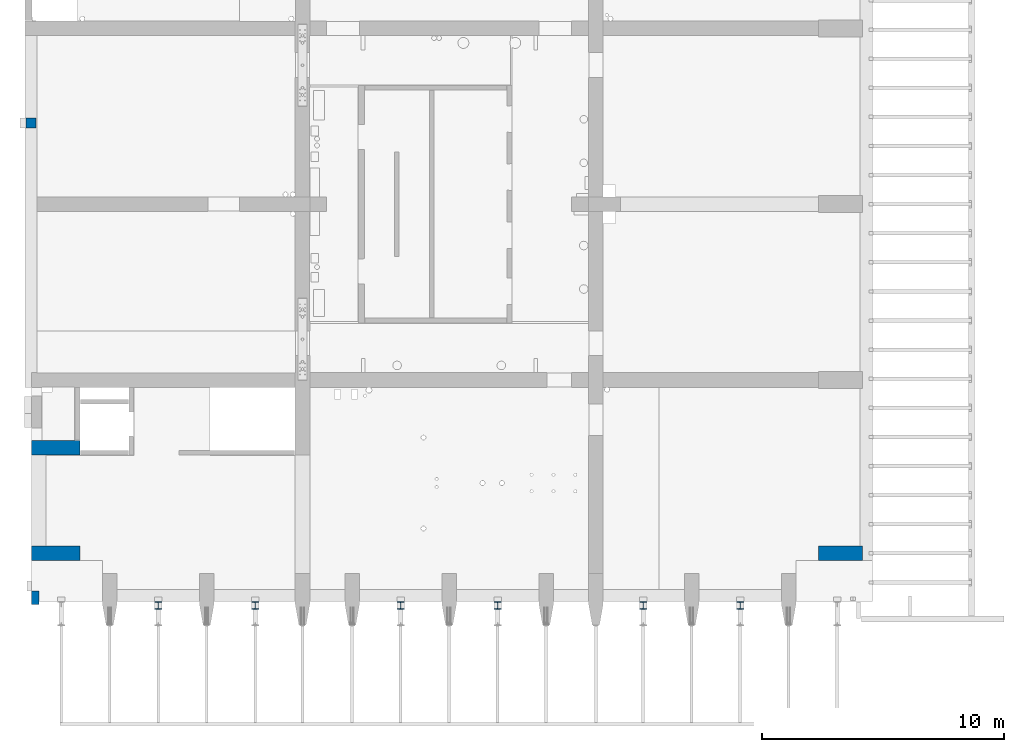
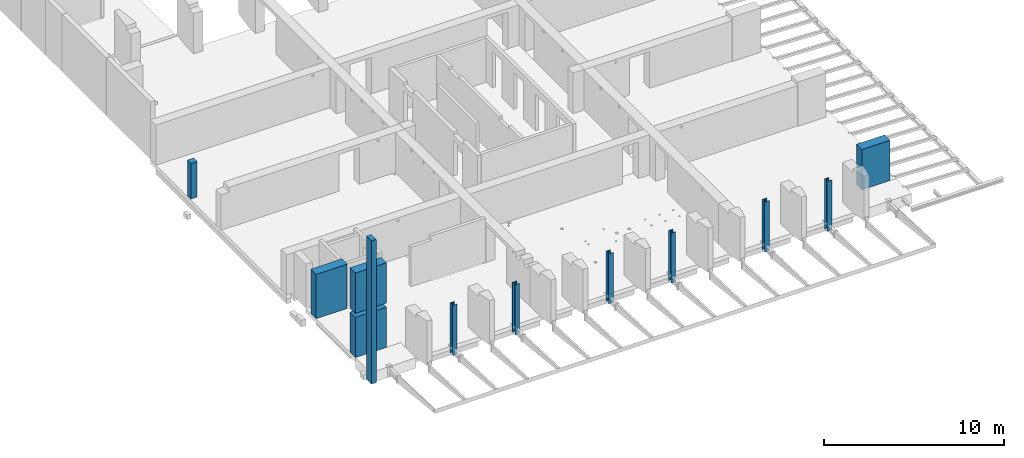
# One storey, part 1 of 27: 11 columns.
"""IFC2X3 building model written with IfcOpenShell, lengths in millimetres."""

from ifc_helpers import new_model, entity, si_unit, converted_unit, derived_unit, direction, frame, frame_2d, origin, origin_2d_with_axis, place, context, subcontext, project, spatial, polyline, circle_curve, parameter, trimmed, segment, composite_curve, rectangle, outline, extrude, source, transform, mapped, material, type_object, type_shapes, element, save


model = new_model("IFC2X3")

# Units and contexts
model_context = context("Model", 3, precision=0.01, world=origin(), true_north=direction((6.12303176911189e-17, 1.0)))
body_context = subcontext(model_context, "Body", "Model", "MODEL_VIEW")
ifc_project = project(units=[si_unit("LENGTHUNIT", "METRE", prefix="MILLI"), si_unit("AREAUNIT", "SQUARE_METRE"), si_unit("VOLUMEUNIT", "CUBIC_METRE"), converted_unit("PLANEANGLEUNIT", "DEGREE", entity("IfcRatioMeasure", 0.0174532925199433), si_unit("PLANEANGLEUNIT", "RADIAN"), dimensions=[0, 0, 0, 0, 0, 0, 0]), si_unit("MASSUNIT", "GRAM", prefix="KILO"), derived_unit("MASSDENSITYUNIT", [(si_unit("MASSUNIT", "GRAM", prefix="KILO"), 1), (si_unit("LENGTHUNIT", "METRE"), -3)]), si_unit("TIMEUNIT", "SECOND"), si_unit("FREQUENCYUNIT", "HERTZ"), si_unit("THERMODYNAMICTEMPERATUREUNIT", "DEGREE_CELSIUS"), derived_unit("THERMALTRANSMITTANCEUNIT", [(si_unit("MASSUNIT", "GRAM", prefix="KILO"), 1), (si_unit("THERMODYNAMICTEMPERATUREUNIT", "KELVIN"), -1), (si_unit("TIMEUNIT", "SECOND"), -3)]), derived_unit("VOLUMETRICFLOWRATEUNIT", [(si_unit("LENGTHUNIT", "METRE"), 3), (si_unit("TIMEUNIT", "SECOND"), -1)]), si_unit("ELECTRICCURRENTUNIT", "AMPERE"), si_unit("ELECTRICVOLTAGEUNIT", "VOLT"), si_unit("POWERUNIT", "WATT"), si_unit("FORCEUNIT", "NEWTON", prefix="KILO"), si_unit("ILLUMINANCEUNIT", "LUX"), si_unit("LUMINOUSFLUXUNIT", "LUMEN"), si_unit("LUMINOUSINTENSITYUNIT", "CANDELA"), derived_unit("USERDEFINED", [(si_unit("MASSUNIT", "GRAM", prefix="KILO"), -1), (si_unit("LENGTHUNIT", "METRE"), -2), (si_unit("TIMEUNIT", "SECOND"), 3), (si_unit("LUMINOUSFLUXUNIT", "LUMEN"), 1)]), derived_unit("LINEARVELOCITYUNIT", [(si_unit("LENGTHUNIT", "METRE"), 1), (si_unit("TIMEUNIT", "SECOND"), -1)]), si_unit("PRESSUREUNIT", "PASCAL"), derived_unit("USERDEFINED", [(si_unit("LENGTHUNIT", "METRE"), -2), (si_unit("MASSUNIT", "GRAM", prefix="KILO"), 1), (si_unit("TIMEUNIT", "SECOND"), -2)])], contexts=[model_context])

# Site, building, storey
site_placement = place(None, origin())
site = spatial("IfcSite", under=ifc_project, at=site_placement, Name="Default", CompositionType="ELEMENT")
building_placement = place(site_placement, origin())
building = spatial("IfcBuilding", under=site, at=building_placement, Name="niet gebruiken", CompositionType="ELEMENT")
storey_placement = place(building_placement, frame((0.0, 0.0, 6000.0)))
storey = spatial("IfcBuildingStorey", under=building, at=storey_placement, Name="01 eerste verdieping", CompositionType="ELEMENT", Elevation=6000.0)

# Columns
ifc_material_1 = material(Name="NLRS_f2_beton prefab")
column_type_1 = type_object("IfcColumnType", Name="300x550", PredefinedType="COLUMN", material=ifc_material_1)
shared_shape_1 = source(origin(), body_context, "Body", "SweptSolid", [
    extrude(rectangle(XDim=550.0, YDim=300.0, at=origin_2d_with_axis()), frame((0.0, 0.0, 5210.0), z_axis=(0.0, 0.0, 1.0), x_axis=(0.0, -1.0, 0.0)), (0.0, 0.0, 1.0), 9700.0),
])
type_shapes(column_type_1, [shared_shape_1])
column_1_placement = place(storey_placement, frame((124680.0, 1275.0, -6000.0)))
element("IfcColumn", 1, at=column_1_placement, inside=storey, type_object=column_type_1, material=ifc_material_1, Name="NLRS_28. kolom vierkant_gen:300x550", ObjectType="300x550", context=body_context, shape_type="MappedRepresentation", body=[
    mapped(shared_shape_1, transform((0.0, 0.0, 0.0), scale=1.0)),
])
ifc_material_2 = material(Name="NLRS_f2_beton ihwg")
column_type_2 = type_object("IfcColumnType", Name="600x1990", PredefinedType="COLUMN", material=ifc_material_2)
shared_shape_2 = source(origin(), body_context, "Body", "SweptSolid", [
    extrude(rectangle(XDim=600.0, YDim=1990.0, at=origin_2d_with_axis()), frame((125525.0, 3100.0, 8910.0), z_axis=(0.0, 0.0, 1.0), x_axis=(0.0, -1.0, 0.0)), (0.0, 0.0, 1.0), 2730.0),
    extrude(rectangle(XDim=600.0, YDim=1990.0, at=origin_2d_with_axis()), frame((125525.0, 3100.0, 5910.0), z_axis=(0.0, 0.0, 1.0), x_axis=(0.0, -1.0, 0.0)), (0.0, 0.0, 1.0), 2730.00000000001),
])
type_shapes(column_type_2, [shared_shape_2])
column_2_placement = place(storey_placement, frame((0.0, 0.0, -6000.0)))
element("IfcColumn", 2, at=column_2_placement, inside=storey, type_object=column_type_2, material=ifc_material_2, Name="NLRS_28.11_SCO_TLB_beton kolom ihwg_gen:600x1990", ObjectType="600x1990", context=body_context, shape_type="MappedRepresentation", body=[
    mapped(shared_shape_2, transform((0.0, 0.0, 0.0), scale=1.0)),
])
column_type_3 = type_object("IfcColumnType", Name="600x1820", PredefinedType="COLUMN", material=ifc_material_2)
shared_shape_3 = source(origin(), body_context, "Body", "SweptSolid", [
    extrude(rectangle(XDim=600.0, YDim=1820.0, at=origin_2d_with_axis()), frame((157890.0, 3100.0, 5910.0), z_axis=(0.0, 0.0, 1.0), x_axis=(0.0, -1.0, 0.0)), (0.0, 0.0, 1.0), 2730.00000000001),
])
type_shapes(column_type_3, [shared_shape_3])
column_3_placement = place(storey_placement, frame((0.0, 0.0, -6000.0)))
element("IfcColumn", 3, at=column_3_placement, inside=storey, type_object=column_type_3, material=ifc_material_2, Name="NLRS_28.11_SCO_TLB_beton kolom ihwg_gen:600x1820", ObjectType="600x1820", context=body_context, shape_type="MappedRepresentation", body=[
    mapped(shared_shape_3, transform((0.0, 0.0, 0.0), scale=1.0)),
])
column_type_4 = type_object("IfcColumnType", Name="600x1990", PredefinedType="COLUMN", material=ifc_material_2)
shared_shape_4 = source(origin(), body_context, "Body", "SweptSolid", [
    extrude(rectangle(XDim=600.0, YDim=1990.0, at=origin_2d_with_axis()), frame((125525.0, 7450.0, 5910.0), z_axis=(0.0, 0.0, 1.0), x_axis=(0.0, -1.0, 0.0)), (0.0, 0.0, 1.0), 3000.0),
])
type_shapes(column_type_4, [shared_shape_4])
column_4_placement = place(storey_placement, frame((0.0, 0.0, -6000.0)))
element("IfcColumn", 4, at=column_4_placement, inside=storey, type_object=column_type_4, material=ifc_material_2, Name="NLRS_28.11_SCO_TLB_beton kolom ihwg_gen:600x1990", ObjectType="600x1990", context=body_context, shape_type="MappedRepresentation", body=[
    mapped(shared_shape_4, transform((0.0, 0.0, 0.0), scale=1.0)),
])
column_type_5 = type_object("IfcColumnType", Name="400x400", PredefinedType="COLUMN", material=ifc_material_2)
shared_shape_5 = source(origin(), body_context, "Body", "SweptSolid", [
    extrude(rectangle(XDim=400.0, YDim=399.999999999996, at=frame_2d((2.17426077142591e-12, 0.0), x_axis=(1.0, 0.0))), frame((124500.0, 20846.0, 5910.0), z_axis=(0.0, 0.0, 1.0), x_axis=(0.0, -1.0, 0.0)), (0.0, 0.0, 1.0), 2400.0),
])
type_shapes(column_type_5, [shared_shape_5])
column_5_placement = place(storey_placement, frame((0.0, 0.0, -6000.0)))
element("IfcColumn", 5, at=column_5_placement, inside=storey, type_object=column_type_5, material=ifc_material_2, Name="NLRS_28.11_SCO_TLB_beton kolom ihwg_gen:400x400", ObjectType="400x400", context=body_context, shape_type="MappedRepresentation", body=[
    mapped(shared_shape_5, transform((0.0, 0.0, 0.0), scale=1.0)),
])
ifc_material_3 = material(Name="NLRS_h2_staal")
column_type_6 = type_object("IfcColumnType", Name="kolom HEB 300", PredefinedType="COLUMN", material=ifc_material_3)
shared_shape_6 = source(origin(), body_context, "Body", "SweptSolid", [
    extrude(outline(composite_curve([segment(polyline([(131.0, -150.0), (150.0, -150.0)]), True, "CONTINUOUS"), segment(polyline([(150.0, -150.0), (150.0, 150.0)]), True, "CONTINUOUS"), segment(polyline([(150.0, 150.0), (131.0, 150.0)]), True, "CONTINUOUS"), segment(polyline([(131.0, 150.0), (131.0, 32.499999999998)]), True, "CONTINUOUS"), segment(trimmed(circle_curve(frame_2d((104.0, 32.4999999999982), x_axis=(1.0, 0.0)), 27.0), [parameter(270.0)], [parameter(0.0)], True, "PARAMETER"), False, "CONTINUOUS"), segment(polyline([(104.0, 5.49999999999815), (-104.0, 5.49999999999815)]), True, "CONTINUOUS"), segment(trimmed(circle_curve(frame_2d((-104.0, 32.4999999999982), x_axis=(0.0, -1.0)), 27.0), [parameter(270.0)], [parameter(0.0)], True, "PARAMETER"), False, "CONTINUOUS"), segment(polyline([(-131.0, 32.4999999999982), (-131.0, 150.0)]), True, "CONTINUOUS"), segment(polyline([(-131.0, 150.0), (-150.0, 150.0)]), True, "CONTINUOUS"), segment(polyline([(-150.0, 150.0), (-150.0, -150.0)]), True, "CONTINUOUS"), segment(polyline([(-150.0, -150.0), (-131.0, -150.0)]), True, "CONTINUOUS"), segment(polyline([(-131.0, -150.0), (-131.0, -32.5000000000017)]), True, "CONTINUOUS"), segment(trimmed(circle_curve(frame_2d((-104.0, -32.5000000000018), x_axis=(-1.0, 0.0)), 26.9999999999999), [parameter(270.0)], [parameter(0.0)], True, "PARAMETER"), False, "CONTINUOUS"), segment(polyline([(-104.0, -5.50000000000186), (104.0, -5.50000000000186)]), True, "CONTINUOUS"), segment(trimmed(circle_curve(frame_2d((104.0, -32.5000000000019), x_axis=(0.0, 1.0)), 27.0), [parameter(270.0)], [parameter(0.0)], True, "PARAMETER"), False, "CONTINUOUS"), segment(polyline([(131.0, -32.5000000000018), (131.0, -150.0)]), True, "CONTINUOUS")], self_intersect=False)), frame((0.0, 0.0, 5495.0), z_axis=(0.0, 0.0, 1.0), x_axis=(0.0, -1.0, 0.0)), (0.0, 0.0, 1.0), 3385.00000000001),
])
type_shapes(column_type_6, [shared_shape_6])
for number, where, name in (
    (6, (129750.0, 949.0, -6000.0), "NLRS_28.11_SCO_TLB_stalen kolom HEB_gen:kolom HEB 300"),
    (7, (153750.0, 949.0, -6000.0), "NLRS_28.11_SCO_TLB_stalen kolom HEB_gen:kolom HEB 300"),
    (8, (149750.0, 949.0, -6000.0), "NLRS_28.11_SCO_TLB_stalen kolom HEB_gen:kolom HEB 300"),
    (9, (143750.0, 949.0, -6000.0), "NLRS_28.11_SCO_TLB_stalen kolom HEB_gen:kolom HEB 300"),
    (10, (139750.0, 949.0, -6000.0), "NLRS_28.11_SCO_TLB_stalen kolom HEB_gen:kolom HEB 300"),
    (11, (133750.0, 949.0, -6000.0), "NLRS_28.11_SCO_TLB_stalen kolom HEB_gen:kolom HEB 300"),
):
    element("IfcColumn", number, at=place(storey_placement, frame(where)), inside=storey, type_object=column_type_6, material=ifc_material_3, Name=name, ObjectType="kolom HEB 300", context=body_context, shape_type="MappedRepresentation", body=[
        mapped(shared_shape_6, transform((0.0, 0.0, 0.0), scale=1.0)),
    ])

save(model, "model.ifc")
